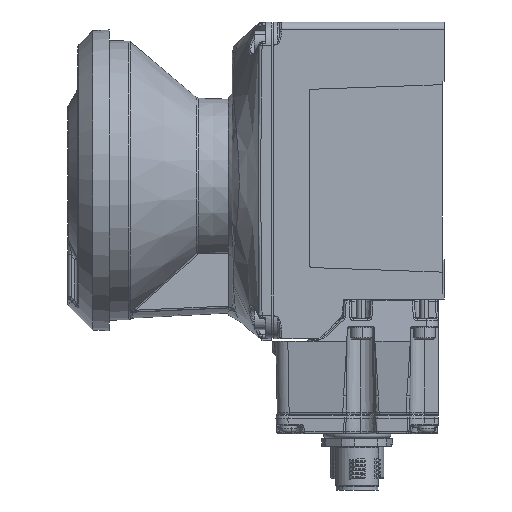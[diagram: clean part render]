
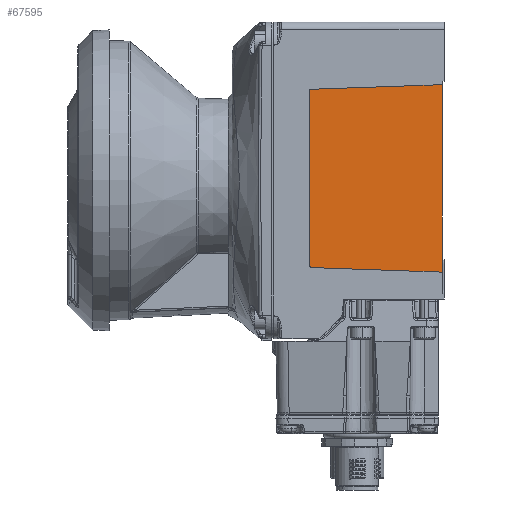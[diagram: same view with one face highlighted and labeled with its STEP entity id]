
A CAD part, left-side view. The second image highlights one B-rep face of the part: STEP entity #67595.
In plain terms, the highlighted planar face has unit normal (-1, -0.018, 0).
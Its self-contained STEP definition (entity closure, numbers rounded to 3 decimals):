
#5412 = EDGE_CURVE ( 'NONE', #103790, #112815, #55931, .T. ) ;
#7046 = DIRECTION ( 'NONE',  ( -1., -0.017, 0. ) ) ;
#7793 = CARTESIAN_POINT ( 'NONE',  ( -38.915, -2.5, -23.17 ) ) ;
#9319 = ORIENTED_EDGE ( 'NONE', *, *, #101759, .F. ) ;
#9843 = VECTOR ( 'NONE', #65750, 1000. ) ;
#12020 = ORIENTED_EDGE ( 'NONE', *, *, #5412, .F. ) ;
#12407 = VERTEX_POINT ( 'NONE', #17369 ) ;
#12806 = CARTESIAN_POINT ( 'NONE',  ( -39.5, 31., 23. ) ) ;
#14153 = CARTESIAN_POINT ( 'NONE',  ( -39.492, 30.517, 23.017 ) ) ;
#17302 = EDGE_CURVE ( 'NONE', #12407, #107638, #23271, .T. ) ;
#17369 = CARTESIAN_POINT ( 'NONE',  ( -38.915, -2.5, 24.17 ) ) ;
#20691 = EDGE_CURVE ( 'NONE', #107638, #48424, #32518, .T. ) ;
#23271 = LINE ( 'NONE', #84996, #9843 ) ;
#24623 = ORIENTED_EDGE ( 'NONE', *, *, #113939, .T. ) ;
#26915 = VECTOR ( 'NONE', #43999, 1000. ) ;
#28122 = CARTESIAN_POINT ( 'NONE',  ( -39.5, 31., -21.802 ) ) ;
#32518 = LINE ( 'NONE', #33185, #61182 ) ;
#33185 = CARTESIAN_POINT ( 'NONE',  ( -38.915, -2.49, -23.169 ) ) ;
#37600 = FACE_OUTER_BOUND ( 'NONE', #39890, .T. ) ;
#38794 =( BOUNDED_CURVE ( )  B_SPLINE_CURVE ( 3, ( #117744, #28122, #122132, #107816 ),
 .UNSPECIFIED., .F., .T. ) 
 B_SPLINE_CURVE_WITH_KNOTS ( ( 4, 4 ),
 ( 3.142, 4.677 ),
 .UNSPECIFIED. ) 
 CURVE ( )  GEOMETRIC_REPRESENTATION_ITEM ( )  RATIONAL_B_SPLINE_CURVE ( ( 1., 0.813, 0.813, 1. ) ) 
 REPRESENTATION_ITEM ( '' )  );
#39890 = EDGE_LOOP ( 'NONE', ( #9319, #122447, #12020, #24623, #98968, #130476 ) ) ;
#40846 = CARTESIAN_POINT ( 'NONE',  ( -39.5, 31., -21.517 ) ) ;
#40877 = AXIS2_PLACEMENT_3D ( 'NONE', #79344, #7046, #118512 ) ;
#43999 = DIRECTION ( 'NONE',  ( 0., 0., 1. ) ) ;
#44017 = CARTESIAN_POINT ( 'NONE',  ( -39.5, 31., 22.802 ) ) ;
#48424 = VERTEX_POINT ( 'NONE', #77456 ) ;
#55931 = LINE ( 'NONE', #12806, #26915 ) ;
#58026 = VERTEX_POINT ( 'NONE', #83839 ) ;
#61182 = VECTOR ( 'NONE', #73313, 1000. ) ;
#61617 = CARTESIAN_POINT ( 'NONE',  ( -39.5, 31., 22.517 ) ) ;
#65207 = LINE ( 'NONE', #128147, #127087 ) ;
#65750 = DIRECTION ( 'NONE',  ( 0., 0., -1. ) ) ;
#67155 = DIRECTION ( 'NONE',  ( 0.017, -0.999, 0.035 ) ) ;
#67595 = ADVANCED_FACE ( 'NONE', ( #37600 ), #78681, .T. ) ;
#73313 = DIRECTION ( 'NONE',  ( -0.017, 0.999, 0.035 ) ) ;
#77456 = CARTESIAN_POINT ( 'NONE',  ( -39.492, 30.517, -22.017 ) ) ;
#78681 = PLANE ( 'NONE',  #40877 ) ;
#79344 = CARTESIAN_POINT ( 'NONE',  ( -39.5, 31., 23. ) ) ;
#83839 = CARTESIAN_POINT ( 'NONE',  ( -39.492, 30.517, 23.017 ) ) ;
#84996 = CARTESIAN_POINT ( 'NONE',  ( -38.915, -2.5, 23. ) ) ;
#91202 = EDGE_CURVE ( 'NONE', #58026, #112815, #101955, .T. ) ;
#98968 = ORIENTED_EDGE ( 'NONE', *, *, #20691, .F. ) ;
#101759 = EDGE_CURVE ( 'NONE', #58026, #12407, #65207, .T. ) ;
#101955 =( BOUNDED_CURVE ( )  B_SPLINE_CURVE ( 3, ( #14153, #126248, #44017, #115017 ),
 .UNSPECIFIED., .F., .T. ) 
 B_SPLINE_CURVE_WITH_KNOTS ( ( 4, 4 ),
 ( 1.606, 3.142 ),
 .UNSPECIFIED. ) 
 CURVE ( )  GEOMETRIC_REPRESENTATION_ITEM ( )  RATIONAL_B_SPLINE_CURVE ( ( 1., 0.813, 0.813, 1. ) ) 
 REPRESENTATION_ITEM ( '' )  );
#103790 = VERTEX_POINT ( 'NONE', #40846 ) ;
#107638 = VERTEX_POINT ( 'NONE', #7793 ) ;
#107816 = CARTESIAN_POINT ( 'NONE',  ( -39.492, 30.517, -22.017 ) ) ;
#112815 = VERTEX_POINT ( 'NONE', #61617 ) ;
#113939 = EDGE_CURVE ( 'NONE', #103790, #48424, #38794, .T. ) ;
#115017 = CARTESIAN_POINT ( 'NONE',  ( -39.5, 31., 22.517 ) ) ;
#117744 = CARTESIAN_POINT ( 'NONE',  ( -39.5, 31., -21.517 ) ) ;
#118512 = DIRECTION ( 'NONE',  ( -0.017, 1., 0. ) ) ;
#122132 = CARTESIAN_POINT ( 'NONE',  ( -39.497, 30.802, -22.007 ) ) ;
#122447 = ORIENTED_EDGE ( 'NONE', *, *, #91202, .T. ) ;
#126248 = CARTESIAN_POINT ( 'NONE',  ( -39.497, 30.802, 23.007 ) ) ;
#127087 = VECTOR ( 'NONE', #67155, 1000. ) ;
#128147 = CARTESIAN_POINT ( 'NONE',  ( -38.915, -2.49, 24.169 ) ) ;
#130476 = ORIENTED_EDGE ( 'NONE', *, *, #17302, .F. ) ;
